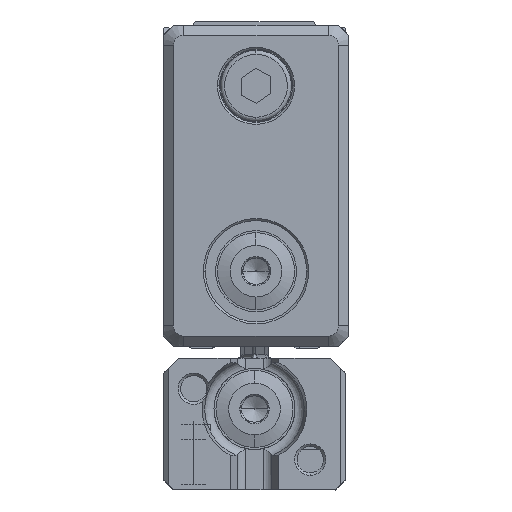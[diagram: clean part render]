
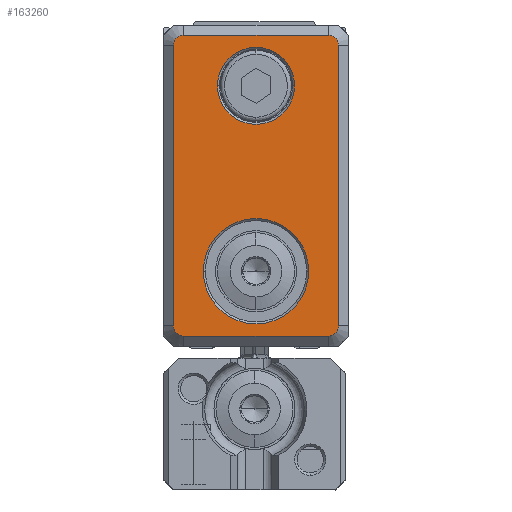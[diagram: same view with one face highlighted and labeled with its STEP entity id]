
A CAD part, left-side view. The second image highlights one B-rep face of the part: STEP entity #163260.
In plain terms, the highlighted planar face has unit normal (-1, 0, 0).
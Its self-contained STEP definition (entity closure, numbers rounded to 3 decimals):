
#133370=CARTESIAN_POINT('',(-277.138,43.35,
-56.983));
#133380=VERTEX_POINT('',#133370);
#133410=CARTESIAN_POINT('',(-277.138,38.15,
-56.983));
#133420=DIRECTION('',(1.,0.,0.));
#133430=DIRECTION('',(0.,-1.,0.));
#133440=AXIS2_PLACEMENT_3D('',#133410,#133420,#133430);
#133450=CIRCLE('',#133440,5.2);
#133460=CARTESIAN_POINT('',(-277.138,32.95,
-56.983));
#133470=VERTEX_POINT('',#133460);
#133480=EDGE_CURVE('',#133380,#133470,#133450,.T.);
#134330=CARTESIAN_POINT('',(-277.138,31.,
-50.583));
#134340=VERTEX_POINT('',#134330);
#135150=CARTESIAN_POINT('',(-277.138,30.,
-51.583));
#135160=VERTEX_POINT('',#135150);
#135190=CARTESIAN_POINT('',(-277.138,31.,
-51.583));
#135200=DIRECTION('',(1.,0.,0.));
#135210=DIRECTION('',(0.,1.,0.));
#135220=AXIS2_PLACEMENT_3D('',#135190,#135200,#135210);
#135230=CIRCLE('',#135220,1.);
#135240=EDGE_CURVE('',#134340,#135160,#135230,.T.);
#138880=CARTESIAN_POINT('',(-277.138,45.3,
-50.583));
#138890=VERTEX_POINT('',#138880);
#139010=CARTESIAN_POINT('',(-277.138,46.75,
-50.583));
#139020=DIRECTION('',(0.,1.,0.));
#139030=VECTOR('',#139020,1.);
#139040=LINE('',#139010,#139030);
#139050=EDGE_CURVE('',#134340,#138890,#139040,.T.);
#146680=CARTESIAN_POINT('',(-277.138,46.3,
-79.283));
#146690=VERTEX_POINT('',#146680);
#146740=CARTESIAN_POINT('',(-277.138,45.3,
-79.283));
#146750=DIRECTION('',(1.,0.,0.));
#146760=DIRECTION('',(0.,1.,0.));
#146770=AXIS2_PLACEMENT_3D('',#146740,#146750,#146760);
#146780=CIRCLE('',#146770,1.);
#146790=CARTESIAN_POINT('',(-277.138,45.3,
-80.283));
#146800=VERTEX_POINT('',#146790);
#146810=EDGE_CURVE('',#146800,#146690,#146780,.T.);
#149630=CARTESIAN_POINT('',(-277.138,30.,
-79.283));
#149640=VERTEX_POINT('',#149630);
#149670=CARTESIAN_POINT('',(-277.138,30.,
-49.133));
#149680=DIRECTION('',(0.,0.,1.));
#149690=VECTOR('',#149680,1.);
#149700=LINE('',#149670,#149690);
#149710=EDGE_CURVE('',#149640,#135160,#149700,.T.);
#151070=CARTESIAN_POINT('',(-277.138,31.,
-80.283));
#151080=VERTEX_POINT('',#151070);
#151130=CARTESIAN_POINT('',(-277.138,46.75,
-80.283));
#151140=DIRECTION('',(0.,-1.,0.));
#151150=VECTOR('',#151140,1.);
#151160=LINE('',#151130,#151150);
#151170=EDGE_CURVE('',#146800,#151080,#151160,.T.);
#152180=CARTESIAN_POINT('',(-277.138,46.3,
-51.583));
#152190=VERTEX_POINT('',#152180);
#152900=CARTESIAN_POINT('',(-277.138,45.3,
-51.583));
#152910=DIRECTION('',(1.,0.,0.));
#152920=DIRECTION('',(0.,1.,0.));
#152930=AXIS2_PLACEMENT_3D('',#152900,#152910,#152920);
#152940=CIRCLE('',#152930,1.);
#152950=EDGE_CURVE('',#152190,#138890,#152940,.T.);
#162370=CARTESIAN_POINT('',(-277.138,41.95,
-75.283));
#162380=VERTEX_POINT('',#162370);
#162460=CARTESIAN_POINT('',(-277.138,34.35,
-75.283));
#162470=VERTEX_POINT('',#162460);
#162500=CARTESIAN_POINT('',(-277.138,38.15,
-75.283));
#162510=DIRECTION('',(-1.,0.,0.));
#162520=DIRECTION('',(0.,1.,0.));
#162530=AXIS2_PLACEMENT_3D('',#162500,#162510,#162520);
#162540=CIRCLE('',#162530,3.8);
#162550=EDGE_CURVE('',#162380,#162470,#162540,.T.);
#162900=CARTESIAN_POINT('',(-277.138,38.15,
-65.583));
#162910=DIRECTION('',(1.,0.,0.));
#162920=DIRECTION('',(0.,1.,0.));
#162930=AXIS2_PLACEMENT_3D('',#162900,#162910,#162920);
#162940=PLANE('',#162930);
#162950=EDGE_CURVE('',#133470,#133380,#133450,.T.);
#162960=ORIENTED_EDGE('',*,*,#162950,.T.);
#162970=ORIENTED_EDGE('',*,*,#133480,.T.);
#162980=EDGE_LOOP('',(#162970,#162960));
#162990=FACE_BOUND('',#162980,.T.);
#163000=EDGE_CURVE('',#162470,#162380,#162540,.T.);
#163010=ORIENTED_EDGE('',*,*,#163000,.F.);
#163020=ORIENTED_EDGE('',*,*,#162550,.F.);
#163030=EDGE_LOOP('',(#163020,#163010));
#163040=FACE_BOUND('',#163030,.T.);
#163050=ORIENTED_EDGE('',*,*,#151170,.T.);
#163060=ORIENTED_EDGE('',*,*,#146810,.F.);
#163070=CARTESIAN_POINT('',(-277.138,46.3,
-49.133));
#163080=DIRECTION('',(0.,0.,-1.));
#163090=VECTOR('',#163080,1.);
#163100=LINE('',#163070,#163090);
#163110=EDGE_CURVE('',#152190,#146690,#163100,.T.);
#163120=ORIENTED_EDGE('',*,*,#163110,.T.);
#163130=ORIENTED_EDGE('',*,*,#152950,.F.);
#163140=ORIENTED_EDGE('',*,*,#139050,.T.);
#163150=ORIENTED_EDGE('',*,*,#135240,.F.);
#163160=ORIENTED_EDGE('',*,*,#149710,.T.);
#163170=CARTESIAN_POINT('',(-277.138,31.,
-79.283));
#163180=DIRECTION('',(1.,0.,0.));
#163190=DIRECTION('',(0.,1.,0.));
#163200=AXIS2_PLACEMENT_3D('',#163170,#163180,#163190);
#163210=CIRCLE('',#163200,1.);
#163220=EDGE_CURVE('',#149640,#151080,#163210,.T.);
#163230=ORIENTED_EDGE('',*,*,#163220,.F.);
#163240=EDGE_LOOP('',(#163230,#163160,#163150,#163140,#163130,#163120,
#163060,#163050));
#163250=FACE_OUTER_BOUND('',#163240,.T.);
#163260=ADVANCED_FACE('',(#162990,#163040,#163250),#162940,.F.);
